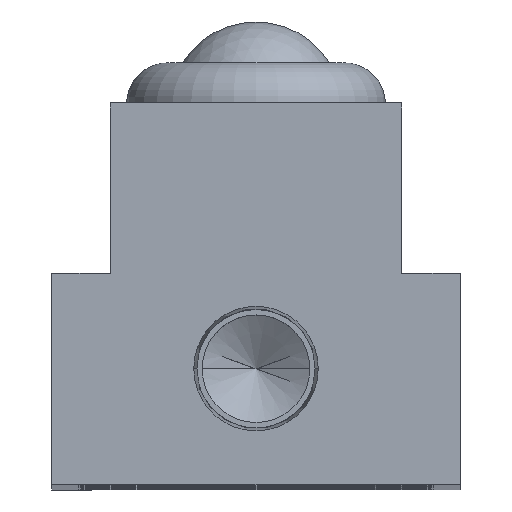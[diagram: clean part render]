
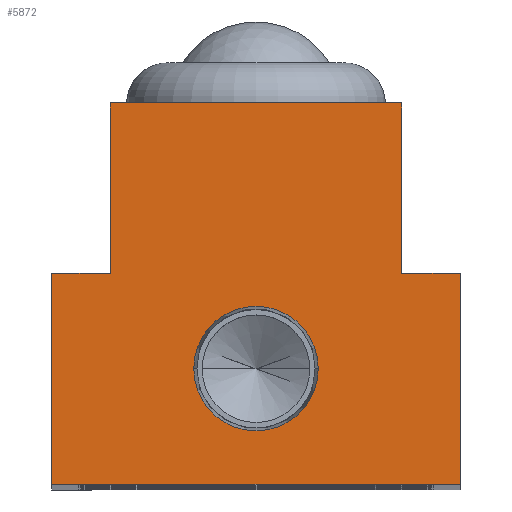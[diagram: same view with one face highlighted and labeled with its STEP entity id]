
A CAD part, top view. The second image highlights one B-rep face of the part: STEP entity #5872.
In plain terms, the highlighted planar face has unit normal (0, 0, 1).
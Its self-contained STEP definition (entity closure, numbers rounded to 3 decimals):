
#27 = VECTOR ( 'NONE', #963, 1000. ) ;
#62 = CARTESIAN_POINT ( 'NONE',  ( 0., 8.5, 0. ) ) ;
#103 = VECTOR ( 'NONE', #4364, 1000. ) ;
#106 = LINE ( 'NONE', #1698, #3875 ) ;
#107 = LINE ( 'NONE', #246, #1511 ) ;
#177 = CARTESIAN_POINT ( 'NONE',  ( 0., 0., 0. ) ) ;
#246 = CARTESIAN_POINT ( 'NONE',  ( -10.7, 15.5, 0. ) ) ;
#273 = CARTESIAN_POINT ( 'NONE',  ( -4.574, 8.5, 0. ) ) ;
#488 = CARTESIAN_POINT ( 'NONE',  ( 0., 8.5, 0. ) ) ;
#489 = VERTEX_POINT ( 'NONE', #634 ) ;
#494 = EDGE_LOOP ( 'NONE', ( #5210, #1344 ) ) ;
#595 = DIRECTION ( 'NONE',  ( 1., 0., 0. ) ) ;
#634 = CARTESIAN_POINT ( 'NONE',  ( 15., 15.5, 0. ) ) ;
#654 = EDGE_CURVE ( 'NONE', #5243, #5603, #2085, .T. ) ;
#824 = FACE_OUTER_BOUND ( 'NONE', #4475, .T. ) ;
#892 = AXIS2_PLACEMENT_3D ( 'NONE', #488, #4050, #1022 ) ;
#963 = DIRECTION ( 'NONE',  ( 0., -1., 0. ) ) ;
#968 = EDGE_CURVE ( 'NONE', #5369, #5243, #106, .T. ) ;
#1022 = DIRECTION ( 'NONE',  ( 1., 0., 0. ) ) ;
#1033 = DIRECTION ( 'NONE',  ( 0., 1., 0. ) ) ;
#1045 = EDGE_CURVE ( 'NONE', #1333, #5323, #4873, .T. ) ;
#1061 = VECTOR ( 'NONE', #5521, 1000. ) ;
#1068 = DIRECTION ( 'NONE',  ( -1., 0., 0. ) ) ;
#1234 = LINE ( 'NONE', #2028, #1061 ) ;
#1266 = DIRECTION ( 'NONE',  ( 1., 0., 0. ) ) ;
#1333 = VERTEX_POINT ( 'NONE', #3036 ) ;
#1344 = ORIENTED_EDGE ( 'NONE', *, *, #5059, .F. ) ;
#1461 = EDGE_CURVE ( 'NONE', #3869, #4012, #5117, .T. ) ;
#1506 = LINE ( 'NONE', #3369, #103 ) ;
#1511 = VECTOR ( 'NONE', #2827, 1000. ) ;
#1698 = CARTESIAN_POINT ( 'NONE',  ( 10.7, 28., 0. ) ) ;
#1705 = EDGE_CURVE ( 'NONE', #3385, #1333, #107, .T. ) ;
#1897 = EDGE_CURVE ( 'NONE', #2994, #489, #4653, .T. ) ;
#2019 = VECTOR ( 'NONE', #1033, 1000. ) ;
#2027 = CARTESIAN_POINT ( 'NONE',  ( -10.7, 28., 0. ) ) ;
#2028 = CARTESIAN_POINT ( 'NONE',  ( 10.7, 15.5, 0. ) ) ;
#2049 = FACE_BOUND ( 'NONE', #494, .T. ) ;
#2085 = LINE ( 'NONE', #6144, #4566 ) ;
#2430 = ORIENTED_EDGE ( 'NONE', *, *, #1705, .T. ) ;
#2602 = CIRCLE ( 'NONE', #892, 4.574 ) ;
#2696 = CARTESIAN_POINT ( 'NONE',  ( 10.7, 28., 0. ) ) ;
#2717 = CARTESIAN_POINT ( 'NONE',  ( 4.574, 8.5, 0. ) ) ;
#2827 = DIRECTION ( 'NONE',  ( -1., 0., 0. ) ) ;
#2994 = VERTEX_POINT ( 'NONE', #5859 ) ;
#3021 = EDGE_CURVE ( 'NONE', #5323, #2994, #1506, .T. ) ;
#3036 = CARTESIAN_POINT ( 'NONE',  ( -15., 15.5, 0. ) ) ;
#3153 = ORIENTED_EDGE ( 'NONE', *, *, #6032, .T. ) ;
#3340 = CARTESIAN_POINT ( 'NONE',  ( 10.7, 15.5, 0. ) ) ;
#3369 = CARTESIAN_POINT ( 'NONE',  ( 15., 0., 0. ) ) ;
#3385 = VERTEX_POINT ( 'NONE', #5767 ) ;
#3536 = ORIENTED_EDGE ( 'NONE', *, *, #1897, .T. ) ;
#3582 = CARTESIAN_POINT ( 'NONE',  ( 15., 0., 0. ) ) ;
#3661 = DIRECTION ( 'NONE',  ( 0., 0., 1. ) ) ;
#3706 = ORIENTED_EDGE ( 'NONE', *, *, #4192, .T. ) ;
#3731 = DIRECTION ( 'NONE',  ( 0., 1., 0. ) ) ;
#3746 = CARTESIAN_POINT ( 'NONE',  ( -15., 0., 0. ) ) ;
#3782 = PLANE ( 'NONE',  #4523 ) ;
#3850 = ORIENTED_EDGE ( 'NONE', *, *, #1045, .T. ) ;
#3869 = VERTEX_POINT ( 'NONE', #2717 ) ;
#3875 = VECTOR ( 'NONE', #3731, 1000. ) ;
#3953 = LINE ( 'NONE', #4492, #27 ) ;
#4012 = VERTEX_POINT ( 'NONE', #273 ) ;
#4050 = DIRECTION ( 'NONE',  ( 0., 0., 1. ) ) ;
#4192 = EDGE_CURVE ( 'NONE', #5603, #3385, #3953, .T. ) ;
#4216 = ORIENTED_EDGE ( 'NONE', *, *, #654, .T. ) ;
#4284 = DIRECTION ( 'NONE',  ( 0., 0., 1. ) ) ;
#4364 = DIRECTION ( 'NONE',  ( 1., 0., 0. ) ) ;
#4475 = EDGE_LOOP ( 'NONE', ( #5419, #4216, #3706, #2430, #3850, #5270, #3536, #3153 ) ) ;
#4492 = CARTESIAN_POINT ( 'NONE',  ( -10.7, 28., 0. ) ) ;
#4523 = AXIS2_PLACEMENT_3D ( 'NONE', #177, #4284, #1266 ) ;
#4566 = VECTOR ( 'NONE', #1068, 1000. ) ;
#4653 = LINE ( 'NONE', #3582, #2019 ) ;
#4716 = VECTOR ( 'NONE', #4743, 1000. ) ;
#4743 = DIRECTION ( 'NONE',  ( 0., -1., 0. ) ) ;
#4873 = LINE ( 'NONE', #3746, #4716 ) ;
#5059 = EDGE_CURVE ( 'NONE', #4012, #3869, #2602, .T. ) ;
#5117 = CIRCLE ( 'NONE', #6187, 4.574 ) ;
#5210 = ORIENTED_EDGE ( 'NONE', *, *, #1461, .F. ) ;
#5243 = VERTEX_POINT ( 'NONE', #2696 ) ;
#5270 = ORIENTED_EDGE ( 'NONE', *, *, #3021, .T. ) ;
#5323 = VERTEX_POINT ( 'NONE', #6237 ) ;
#5369 = VERTEX_POINT ( 'NONE', #3340 ) ;
#5419 = ORIENTED_EDGE ( 'NONE', *, *, #968, .T. ) ;
#5521 = DIRECTION ( 'NONE',  ( -1., 0., 0. ) ) ;
#5603 = VERTEX_POINT ( 'NONE', #2027 ) ;
#5767 = CARTESIAN_POINT ( 'NONE',  ( -10.7, 15.5, 0. ) ) ;
#5859 = CARTESIAN_POINT ( 'NONE',  ( 15., 0., 0. ) ) ;
#5872 = ADVANCED_FACE ( 'NONE', ( #2049, #824 ), #3782, .T. ) ;
#6032 = EDGE_CURVE ( 'NONE', #489, #5369, #1234, .T. ) ;
#6144 = CARTESIAN_POINT ( 'NONE',  ( -10.7, 28., 0. ) ) ;
#6187 = AXIS2_PLACEMENT_3D ( 'NONE', #62, #3661, #595 ) ;
#6237 = CARTESIAN_POINT ( 'NONE',  ( -15., 0., 0. ) ) ;
